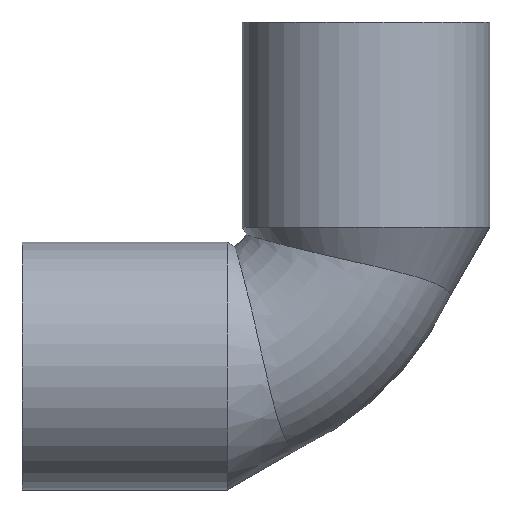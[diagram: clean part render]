
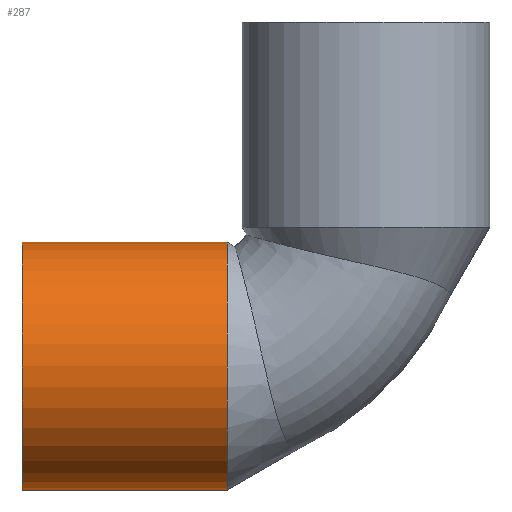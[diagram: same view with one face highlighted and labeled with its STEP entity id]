
A CAD part, top view. The second image highlights one B-rep face of the part: STEP entity #287.
In plain terms, the highlighted cylindrical face has radius 3.6 mm (diameter 7.2 mm), a partial arc.
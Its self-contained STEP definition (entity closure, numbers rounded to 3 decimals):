
#246=CARTESIAN_POINT('',(-1.12,-5.9,0.0));
#247=DIRECTION('',(-1.0,0.,0.0));
#248=DIRECTION('',(0.0,-1.0,0.0));
#249=AXIS2_PLACEMENT_3D('',#246,#247,#248);
#250=CYLINDRICAL_SURFACE('',#249,3.6);
#251=CARTESIAN_POINT('',(1.861,-9.5,0.0));
#252=VERTEX_POINT('',#251);
#253=CARTESIAN_POINT('',(-4.1,-9.5,0.0));
#254=VERTEX_POINT('',#253);
#255=CARTESIAN_POINT('',(1.861,-9.5,0.0));
#256=DIRECTION('',(-1.0,0.0,0.0));
#257=VECTOR('',#256,5.961);
#258=LINE('',#255,#257);
#259=EDGE_CURVE('',#252,#254,#258,.T.);
#260=ORIENTED_EDGE('',*,*,#259,.F.);
#261=CARTESIAN_POINT('',(1.861,-2.3,0.));
#262=VERTEX_POINT('',#261);
#263=CARTESIAN_POINT('',(1.861,-5.9,0.0));
#264=DIRECTION('',(-1.0,0.0,0.0));
#265=DIRECTION('',(0.0,-1.0,0.0));
#266=AXIS2_PLACEMENT_3D('',#263,#264,#265);
#267=CIRCLE('',#266,3.6);
#268=EDGE_CURVE('',#252,#262,#267,.T.);
#269=ORIENTED_EDGE('',*,*,#268,.T.);
#270=CARTESIAN_POINT('',(-4.1,-2.3,0.));
#271=VERTEX_POINT('',#270);
#272=CARTESIAN_POINT('',(-4.1,-2.3,0.));
#273=DIRECTION('',(1.0,0.0,0.0));
#274=VECTOR('',#273,5.961);
#275=LINE('',#272,#274);
#276=EDGE_CURVE('',#271,#262,#275,.T.);
#277=ORIENTED_EDGE('',*,*,#276,.F.);
#278=CARTESIAN_POINT('',(-4.1,-5.9,0.0));
#279=DIRECTION('',(-1.0,0.0,0.0));
#280=DIRECTION('',(0.0,-1.0,0.0));
#281=AXIS2_PLACEMENT_3D('',#278,#279,#280);
#282=CIRCLE('',#281,3.6);
#283=EDGE_CURVE('',#254,#271,#282,.T.);
#284=ORIENTED_EDGE('',*,*,#283,.F.);
#285=EDGE_LOOP('',(#260,#269,#277,#284));
#286=FACE_OUTER_BOUND('',#285,.T.);
#287=ADVANCED_FACE('',(#286),#250,.T.);
